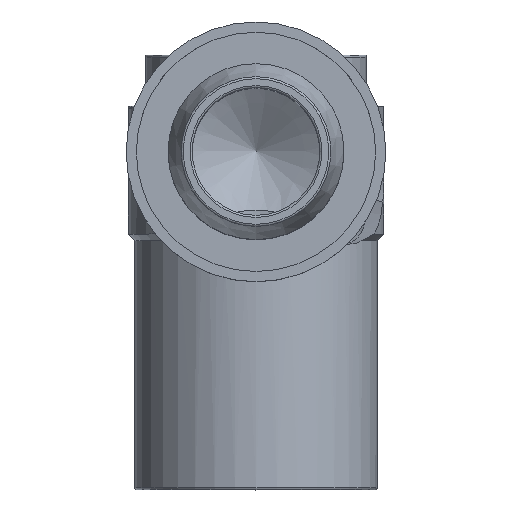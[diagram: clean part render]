
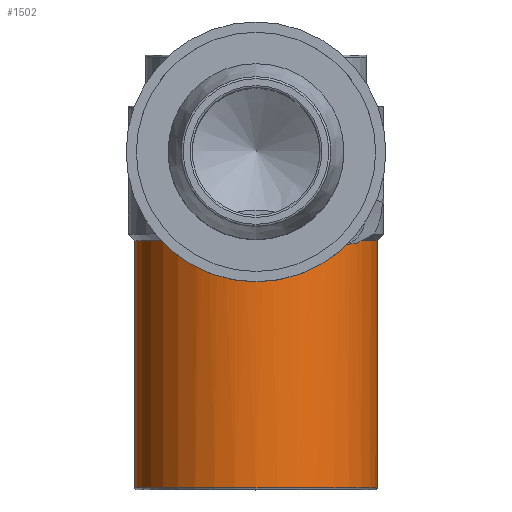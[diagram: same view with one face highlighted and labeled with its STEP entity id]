
A CAD part, top view. The second image highlights one B-rep face of the part: STEP entity #1502.
In plain terms, the highlighted cylindrical face has radius 15.062 mm (diameter 30.124 mm), a full revolution.
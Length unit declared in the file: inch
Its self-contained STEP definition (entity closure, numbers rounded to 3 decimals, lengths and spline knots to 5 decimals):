
#78=B_SPLINE_CURVE_WITH_KNOTS('',3,(#2585,#2586,#2587,#2588,#2589,#2590),
 .UNSPECIFIED.,.F.,.F.,(4,2,4),(4.16968,4.46118,4.73993),
 .UNSPECIFIED.);
#86=B_SPLINE_CURVE_WITH_KNOTS('',3,(#2660,#2661,#2662,#2663,#2664,#2665,
#2666,#2667),.UNSPECIFIED.,.F.,.F.,(4,2,2,4),(1.4871,1.85731,
2.22752,2.3465),.UNSPECIFIED.);
#87=B_SPLINE_CURVE_WITH_KNOTS('',3,(#2668,#2669,#2670,#2671,#2672,#2673,
#2674,#2675),.UNSPECIFIED.,.F.,.F.,(4,2,2,4),(0.6329,0.74668,
1.11689,1.4871),.UNSPECIFIED.);
#112=LINE('',#2659,#167);
#167=VECTOR('',#1994,0.593);
#217=CYLINDRICAL_SURFACE('',#1671,0.593);
#309=FACE_OUTER_BOUND('',#397,.T.);
#397=EDGE_LOOP('',(#1132,#1133,#1134,#1135,#1136,#1137,#1138,#1139,#1140));
#509=CIRCLE('',#1665,0.593);
#512=CIRCLE('',#1670,0.593);
#513=CIRCLE('',#1672,0.593);
#514=CIRCLE('',#1673,0.593);
#647=VERTEX_POINT('',#2582);
#648=VERTEX_POINT('',#2584);
#652=VERTEX_POINT('',#2612);
#659=VERTEX_POINT('',#2647);
#660=VERTEX_POINT('',#2654);
#661=VERTEX_POINT('',#2655);
#662=VERTEX_POINT('',#2658);
#826=EDGE_CURVE('',#648,#647,#78,.T.);
#832=EDGE_CURVE('',#647,#652,#509,.T.);
#840=EDGE_CURVE('',#659,#648,#512,.T.);
#842=EDGE_CURVE('',#660,#661,#513,.T.);
#843=EDGE_CURVE('',#661,#660,#514,.T.);
#844=EDGE_CURVE('',#661,#662,#112,.T.);
#845=EDGE_CURVE('',#662,#659,#86,.T.);
#846=EDGE_CURVE('',#652,#662,#87,.T.);
#1132=ORIENTED_EDGE('',*,*,#842,.F.);
#1133=ORIENTED_EDGE('',*,*,#843,.F.);
#1134=ORIENTED_EDGE('',*,*,#844,.T.);
#1135=ORIENTED_EDGE('',*,*,#845,.T.);
#1136=ORIENTED_EDGE('',*,*,#840,.T.);
#1137=ORIENTED_EDGE('',*,*,#826,.T.);
#1138=ORIENTED_EDGE('',*,*,#832,.T.);
#1139=ORIENTED_EDGE('',*,*,#846,.T.);
#1140=ORIENTED_EDGE('',*,*,#844,.F.);
#1502=ADVANCED_FACE('',(#309),#217,.T.);
#1665=AXIS2_PLACEMENT_3D('',#2614,#1974,#1975);
#1670=AXIS2_PLACEMENT_3D('',#2648,#1986,#1987);
#1671=AXIS2_PLACEMENT_3D('',#2653,#1988,#1989);
#1672=AXIS2_PLACEMENT_3D('',#2656,#1990,#1991);
#1673=AXIS2_PLACEMENT_3D('',#2657,#1992,#1993);
#1974=DIRECTION('center_axis',(0.,-1.,0.));
#1975=DIRECTION('ref_axis',(0.,0.,-1.));
#1986=DIRECTION('center_axis',(0.,-1.,0.));
#1987=DIRECTION('ref_axis',(1.,0.,0.));
#1988=DIRECTION('center_axis',(0.,-1.,0.));
#1989=DIRECTION('ref_axis',(0.,0.,-1.));
#1990=DIRECTION('center_axis',(0.,-1.,0.));
#1991=DIRECTION('ref_axis',(0.,0.,1.));
#1992=DIRECTION('center_axis',(0.,-1.,0.));
#1993=DIRECTION('ref_axis',(0.,0.,1.));
#1994=DIRECTION('',(0.,1.,0.));
#2582=CARTESIAN_POINT('',(0.37498,1.21693,0.45939));
#2584=CARTESIAN_POINT('',(0.51973,1.2185,0.28554));
#2585=CARTESIAN_POINT('Ctrl Pts',(0.51973,1.2185,0.28554));
#2586=CARTESIAN_POINT('Ctrl Pts',(0.50128,1.20632,0.31912));
#2587=CARTESIAN_POINT('Ctrl Pts',(0.4787,1.20024,0.35207));
#2588=CARTESIAN_POINT('Ctrl Pts',(0.43058,1.20024,0.40938));
#2589=CARTESIAN_POINT('Ctrl Pts',(0.40345,1.20579,0.43615));
#2590=CARTESIAN_POINT('Ctrl Pts',(0.37498,1.21693,0.45939));
#2612=CARTESIAN_POINT('',(0.29378,1.21693,0.51512));
#2614=CARTESIAN_POINT('Origin',(0.,1.21693,0.));
#2647=CARTESIAN_POINT('',(-0.29501,1.2185,0.51441));
#2648=CARTESIAN_POINT('Origin',(0.,1.2185,0.));
#2653=CARTESIAN_POINT('Origin',(0.,0.60925,0.));
#2654=CARTESIAN_POINT('',(0.,0.01,-0.593));
#2655=CARTESIAN_POINT('',(0.,0.01,0.593));
#2656=CARTESIAN_POINT('Origin',(0.,0.01,0.));
#2657=CARTESIAN_POINT('Origin',(0.,0.01,0.));
#2658=CARTESIAN_POINT('',(0.,1.075,0.593));
#2659=CARTESIAN_POINT('',(0.,0.60925,0.593));
#2660=CARTESIAN_POINT('Ctrl Pts',(0.,1.075,0.593));
#2661=CARTESIAN_POINT('Ctrl Pts',(-0.04858,1.075,0.593));
#2662=CARTESIAN_POINT('Ctrl Pts',(-0.09948,1.085,0.58652));
#2663=CARTESIAN_POINT('Ctrl Pts',(-0.19154,1.12376,0.56322));
#2664=CARTESIAN_POINT('Ctrl Pts',(-0.23278,1.15245,0.5466));
#2665=CARTESIAN_POINT('Ctrl Pts',(-0.27557,1.19524,0.52521));
#2666=CARTESIAN_POINT('Ctrl Pts',(-0.2856,1.2065,0.51981));
#2667=CARTESIAN_POINT('Ctrl Pts',(-0.29501,1.2185,0.51441));
#2668=CARTESIAN_POINT('Ctrl Pts',(0.29378,1.21693,0.51512));
#2669=CARTESIAN_POINT('Ctrl Pts',(0.28472,1.20552,0.52028));
#2670=CARTESIAN_POINT('Ctrl Pts',(0.27512,1.19479,0.52543));
#2671=CARTESIAN_POINT('Ctrl Pts',(0.23278,1.15245,0.5466));
#2672=CARTESIAN_POINT('Ctrl Pts',(0.19154,1.12376,0.56322));
#2673=CARTESIAN_POINT('Ctrl Pts',(0.09948,1.085,0.58652));
#2674=CARTESIAN_POINT('Ctrl Pts',(0.04858,1.075,0.593));
#2675=CARTESIAN_POINT('Ctrl Pts',(0.,1.075,0.593));
